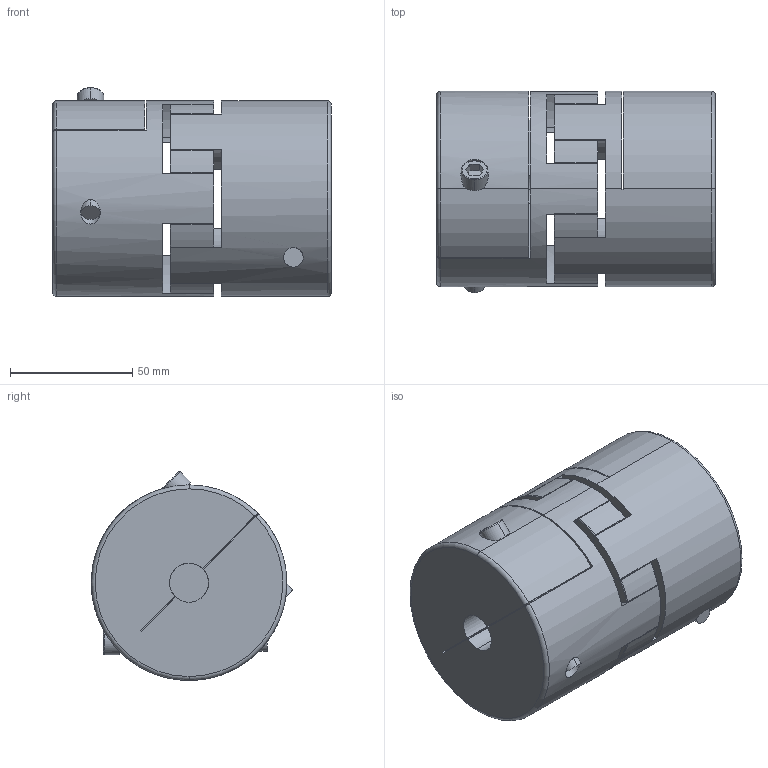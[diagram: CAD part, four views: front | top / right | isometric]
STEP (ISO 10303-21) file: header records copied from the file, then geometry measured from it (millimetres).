
FILE_DESCRIPTION (( 'STEP AP203' ), '1' );
FILE_NAME ('JM80CRD-16-16.STEP', '2021-01-28T00:57:31', ( '微软用户' ), ( '微软中国' ), 'SwSTEP 2.0', 'SolidWorks 2016', '' );
FILE_SCHEMA (( 'CONFIG_CONTROL_DESIGN' ));
Length unit declared in the file: millimetre
Products named in the file (1): JM80CRD-16-16
Bounding box: 114 x 82.43 x 85.48 mm (x, y, z)
Volume: 509940 mm3; surface area: 78655.9 mm2
Topology: 1 solids, 1 shells, 407 faces, 993 edges, 558 vertices
Faces by surface type: torus 151, cylinder 128, sphere 60, plane 52, bspline 16
Entity records: 13141 total; most frequent: CARTESIAN_POINT 3648, DIRECTION 2230, ORIENTED_EDGE 1890, AXIS2_PLACEMENT_3D 1002, EDGE_CURVE 945, CIRCLE 610, VERTEX_POINT 534, EDGE_LOOP 421
